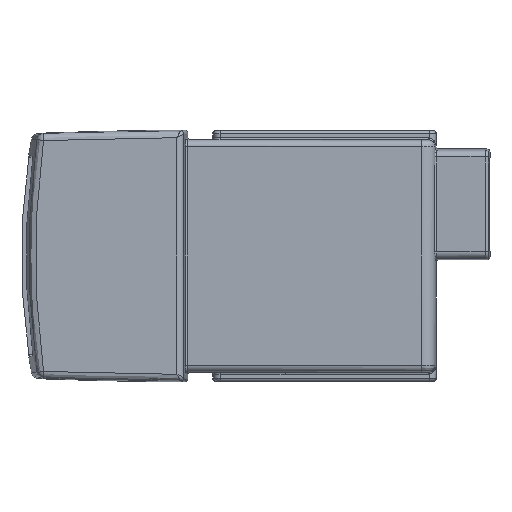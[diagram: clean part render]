
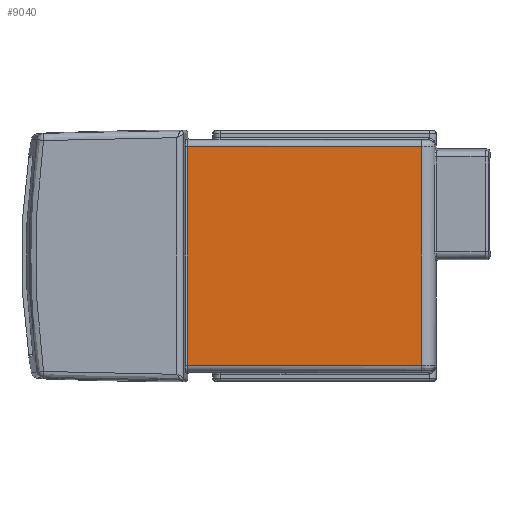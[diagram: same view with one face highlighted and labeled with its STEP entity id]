
A CAD part, front view. The second image highlights one B-rep face of the part: STEP entity #9040.
In plain terms, the highlighted planar face has unit normal (0, -1, 0).
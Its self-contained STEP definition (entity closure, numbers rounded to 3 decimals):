
#875 = VECTOR ( 'NONE', #12644, 1000. ) ;
#977 = EDGE_LOOP ( 'NONE', ( #5137, #16582, #6693, #10863 ) ) ;
#1167 = EDGE_CURVE ( 'NONE', #23217, #6562, #28048, .T. ) ;
#2604 = PLANE ( 'NONE',  #17578 ) ;
#2680 = EDGE_CURVE ( 'NONE', #13094, #23217, #12581, .T. ) ;
#2742 = DIRECTION ( 'NONE',  ( -1., 0., 0. ) ) ;
#4048 = EDGE_CURVE ( 'NONE', #6562, #31109, #31264, .T. ) ;
#4887 = DIRECTION ( 'NONE',  ( 0., -1., 0. ) ) ;
#5137 = ORIENTED_EDGE ( 'NONE', *, *, #4048, .T. ) ;
#6345 = CARTESIAN_POINT ( 'NONE',  ( -21.308, -12.83, -0.535 ) ) ;
#6562 = VERTEX_POINT ( 'NONE', #9325 ) ;
#6693 = ORIENTED_EDGE ( 'NONE', *, *, #2680, .T. ) ;
#6851 = CARTESIAN_POINT ( 'NONE',  ( -0.656, -12.83, 33.517 ) ) ;
#9040 = ADVANCED_FACE ( 'NONE', ( #27374 ), #2604, .T. ) ;
#9072 = DIRECTION ( 'NONE',  ( 1., 0., 0. ) ) ;
#9325 = CARTESIAN_POINT ( 'NONE',  ( -36.096, -12.83, -0.535 ) ) ;
#9569 = DIRECTION ( 'NONE',  ( 0., 0., 1. ) ) ;
#10863 = ORIENTED_EDGE ( 'NONE', *, *, #1167, .T. ) ;
#12581 = LINE ( 'NONE', #22944, #26255 ) ;
#12644 = DIRECTION ( 'NONE',  ( 0., 0., -1. ) ) ;
#13094 = VERTEX_POINT ( 'NONE', #30394 ) ;
#13765 = CARTESIAN_POINT ( 'NONE',  ( -0.656, -12.83, -0.535 ) ) ;
#14878 = LINE ( 'NONE', #6851, #25943 ) ;
#15381 = CARTESIAN_POINT ( 'NONE',  ( -36.096, -12.83, -1.524 ) ) ;
#16582 = ORIENTED_EDGE ( 'NONE', *, *, #22494, .T. ) ;
#17578 = AXIS2_PLACEMENT_3D ( 'NONE', #31893, #4887, #22344 ) ;
#19251 = CARTESIAN_POINT ( 'NONE',  ( -36.096, -12.83, 32.528 ) ) ;
#21604 = VECTOR ( 'NONE', #9072, 1000. ) ;
#22344 = DIRECTION ( 'NONE',  ( 1., 0., 0. ) ) ;
#22494 = EDGE_CURVE ( 'NONE', #31109, #13094, #14878, .T. ) ;
#22944 = CARTESIAN_POINT ( 'NONE',  ( -36.381, -12.83, 32.528 ) ) ;
#23217 = VERTEX_POINT ( 'NONE', #19251 ) ;
#25943 = VECTOR ( 'NONE', #9569, 1000. ) ;
#26255 = VECTOR ( 'NONE', #2742, 1000. ) ;
#27374 = FACE_OUTER_BOUND ( 'NONE', #977, .T. ) ;
#28048 = LINE ( 'NONE', #15381, #875 ) ;
#30394 = CARTESIAN_POINT ( 'NONE',  ( -0.656, -12.83, 32.528 ) ) ;
#31109 = VERTEX_POINT ( 'NONE', #13765 ) ;
#31264 = LINE ( 'NONE', #6345, #21604 ) ;
#31893 = CARTESIAN_POINT ( 'NONE',  ( -21.691, -12.83, 21.215 ) ) ;
